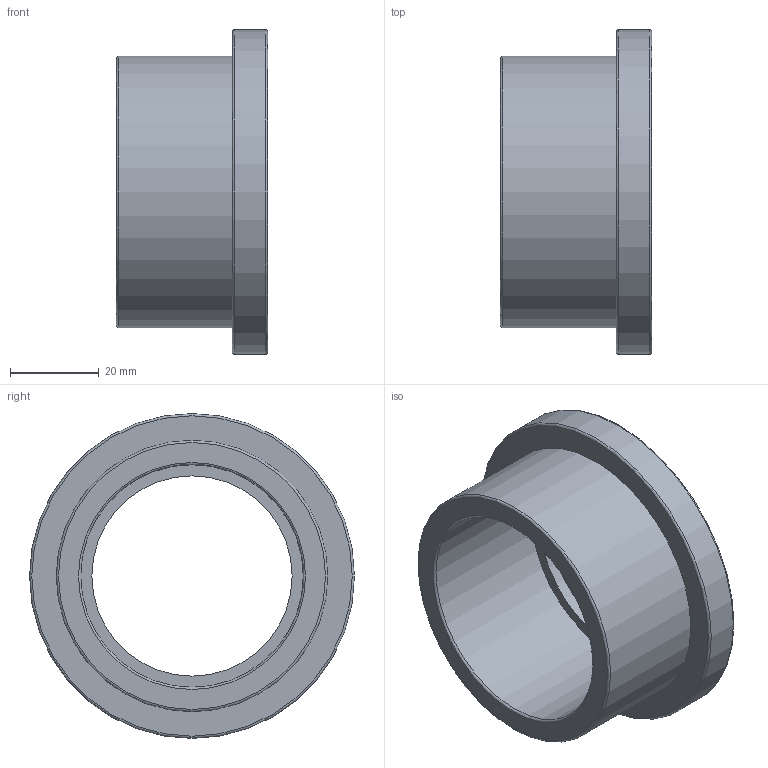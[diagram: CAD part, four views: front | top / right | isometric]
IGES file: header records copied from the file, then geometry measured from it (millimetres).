
Global section: file name: 055100050.ipt; native system: Autodesk Inventor 2015; preprocessor: unknown; author: KIM; date: 20180927.115422; units: millimetre
Bounding box: 34 x 73 x 73 mm (x, y, z)
Volume: 43776.7 mm3; surface area: 17097 mm2
Topology: 1 solids, 1 shells, 13 faces, 36 edges, 27 vertices
Faces by surface type: revolution 7, plane 4, cylinder 2
Full cylindrical faces by diameter (mm): 61 x1, 73 x1
